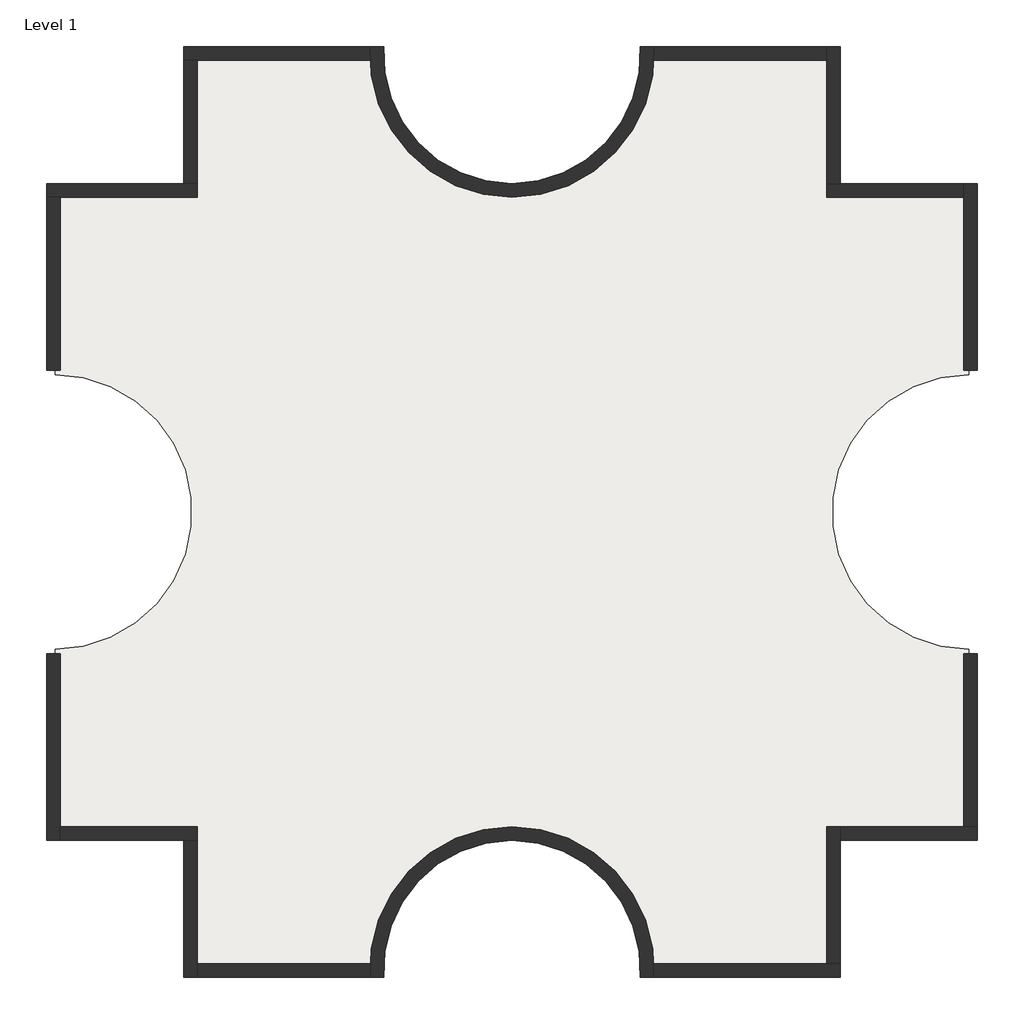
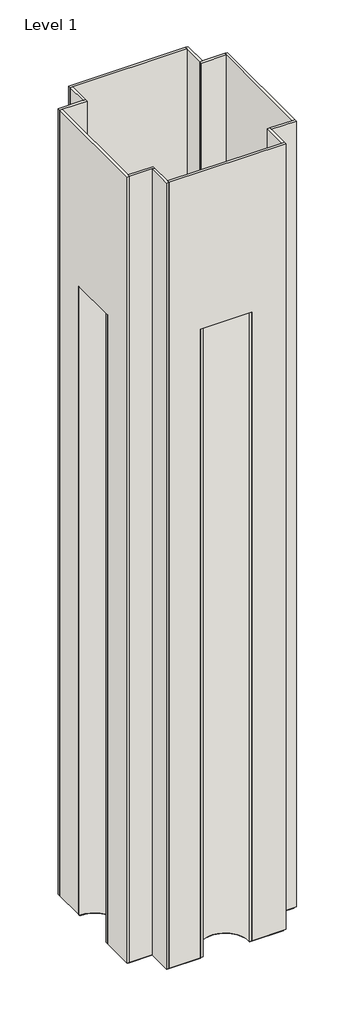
# One storey: 16 walls, 1 slab.
"""IFC4 building model written with IfcOpenShell, lengths in millimetres."""

from ifc_helpers import new_model, si_unit, point, frame, frame_2d, origin, origin_with_axes, place, context, project, spatial, polyline, circle_curve, trimmed, segment, composite_curve, outline, extrude, faceted_brep, element, save
from ifc_brep_helpers import plane_surface, cylinder_surface, revolved_surface, advanced_brep

model = new_model("IFC4")

# Units and contexts
model_context = context("Model", 3, world=origin())
ifc_project = project(units=[si_unit("LENGTHUNIT", "METRE", prefix="MILLI")], contexts=[model_context])

# Site, building, storey
site = spatial("IfcSite", under=ifc_project)
building = spatial("IfcBuilding", under=site)
storey = spatial("IfcBuildingStorey", under=building, Name="Level 1", Elevation=0.0)

# Slab
placement = place(None, origin())
element("IfcSlab", 1, ObjectType="Generic - 12\"", at=placement, inside=storey, context=model_context, shape_type="SweptSolid", body=[
    extrude(outline(composite_curve([segment(polyline([(-7150.3629456, 4479.6634547), (-7150.3629456, 9051.6634547), (-1054.3629456, 9051.6634547)]), True, "CONTINUOUS"), segment(trimmed(circle_curve(frame_2d((3517.6370544, 9051.6634547)), 4572.0), [point((-1054.3629456, 9051.6634547))], [point((8089.6370544, 9051.6634547))], True, "CARTESIAN"), True, "CONTINUOUS"), segment(polyline([(8089.6370544, 9051.6634547), (14185.6370544, 9051.6634547), (14185.6370544, 4479.6634547), (18757.6370544, 4479.6634547), (18757.6370544, -1616.3365453)]), True, "CONTINUOUS"), segment(trimmed(circle_curve(frame_2d((18757.6370544, -6188.3365453)), 4572.0), [point((18757.6370544, -1616.3365453))], [point((18757.6370544, -10760.3365453))], True, "CARTESIAN"), True, "CONTINUOUS"), segment(polyline([(18757.6370544, -10760.3365453), (18757.6370544, -16856.3365453), (14185.6370544, -16856.3365453), (14185.6370544, -21428.3365453), (8089.6370544, -21428.3365453)]), True, "CONTINUOUS"), segment(trimmed(circle_curve(frame_2d((3517.6370544, -21428.3365453)), 4572.0), [point((8089.6370544, -21428.3365453))], [point((-1054.3629456, -21428.3365453))], True, "CARTESIAN"), True, "CONTINUOUS"), segment(polyline([(-1054.3629456, -21428.3365453), (-7150.3629456, -21428.3365453), (-7150.3629456, -16856.3365453), (-11722.3629456, -16856.3365453), (-11722.3629456, -10760.3365453)]), True, "CONTINUOUS"), segment(trimmed(circle_curve(frame_2d((-11722.3629456, -6188.3365453)), 4572.0), [point((-11722.3629456, -10760.3365453))], [point((-11722.3629456, -1616.3365453))], True, "CARTESIAN"), True, "CONTINUOUS"), segment(polyline([(-11722.3629456, -1616.3365453), (-11722.3629456, 4479.6634547), (-7150.3629456, 4479.6634547)]), True, "CONTINUOUS")], self_intersect=False)), frame((0.0, 0.0, -304.8), z_axis=(0.0, 0.0, 1.0), x_axis=(1.0, 0.0, 0.0)), (0.0, 0.0, 1.0), 304.8),
])

# Walls
element("IfcWall", 2, ObjectType="Exterior - CMU on Mtl. Stud", at=placement, inside=storey, context=model_context, shape_type="Brep", body=[
    faceted_brep([(-6985.2629456, 4768.5884547, 0.0), (-7439.2879456, 4768.5884547, 0.0), (-12011.2879456, 4768.5884547, 0.0), (-12011.2879456, 4768.5884547, 152400.0), (-7439.2879456, 4768.5884547, 152400.0), (-6985.2629456, 4768.5884547, 152400.0), (-6985.2629456, 4314.5634547, 0.0), (-6985.2629456, 4314.5634547, 152400.0), (-11557.2629456, 4314.5634547, 152400.0), (-12011.2879456, 4314.5634547, 152400.0), (-12011.2879456, 4314.5634547, 0.0), (-11557.2629456, 4314.5634547, 0.0)], [[[0, 1, 2, 3, 4, 5]], [[6, 7, 8, 9, 10, 11]], [[2, 1, 0, 6, 11, 10]], [[5, 4, 3, 9, 8, 7]], [[3, 2, 10, 9]], [[0, 5, 7, 6]]]),
])
element("IfcWall", 3, ObjectType="Exterior - CMU on Mtl. Stud", at=placement, inside=storey, context=model_context, shape_type="AdvancedBrep", body=[
    advanced_brep(
    [(-12011.2879456, 4314.5634547, 152400.0), (-12011.2879456, 4314.5634547, 0.0), (-12011.2879456, -1460.0558055, 0.0), (-12011.2879456, -1460.0558055, 121920.0), (-12011.2879456, -1915.0177179, 121920.0), (-12011.2879456, -10461.6553726, 121920.0), (-12011.2879456, -10916.6172851, 121920.0), (-12011.2879456, -10916.6172851, 0.0), (-12011.2879456, -17145.2615453, 0.0), (-12011.2879456, -17145.2615453, 152400.0), (-11557.2629456, 4314.5634547, 152400.0), (-11557.2629456, -16691.2365453, 152400.0), (-11557.2629456, -17145.2615453, 152400.0), (-11557.2629456, -17145.2615453, 0.0), (-11557.2629456, -16691.2365453, 0.0), (-11557.2629456, -10922.5585933, 0.0), (-11557.2629456, -10922.5585933, 121920.0), (-11557.2629456, -1454.1144972, 121920.0), (-11557.2629456, -1454.1144972, 0.0), (-11557.2629456, 4314.5634547, 0.0)],
    [
        (0, 1),
        (1, 2),
        (2, 3),
        (3, 4),
        (4, 5),
        (5, 6),
        (6, 7),
        (7, 8),
        (8, 9),
        (9, 0),
        (10, 11),
        (11, 12),
        (12, 13),
        (13, 14),
        (14, 15),
        (15, 16),
        (16, 17),
        (17, 18),
        (18, 19),
        (19, 10),
        (1, 19),
        (18, 2, circle_curve(frame((-11722.3629456, -6188.3365453, 0.0), z_axis=(0.0, 0.0, 1.0), x_axis=(-1.0, 0.0, 0.0)), 4737.1)),
        (3, 17, circle_curve(frame((-11722.3629456, -6188.3365453, 121920.0), z_axis=(0.0, 0.0, -1.0), x_axis=(-1.0, 0.0, 0.0)), 4737.1)),
        (16, 6, circle_curve(frame((-11722.3629456, -6188.3365453, 121920.0), z_axis=(0.0, 0.0, -1.0), x_axis=(-1.0, 0.0, 0.0)), 4737.1)),
        (7, 15, circle_curve(frame((-11722.3629456, -6188.3365453, 0.0), z_axis=(0.0, 0.0, 1.0), x_axis=(-1.0, 0.0, 0.0)), 4737.1)),
        (13, 8),
        (9, 12),
        (10, 0),
    ],
    [
        plane_surface(frame((-12011.2879456, 4541.5759547, 152400.0), z_axis=(-1.0, 0.0, 0.0), x_axis=(0.0, 0.0, -1.0))),
        plane_surface(frame((-11557.2629456, 4541.5759547, 152400.0), z_axis=(1.0, 0.0, 0.0), x_axis=(0.0, 0.0, 1.0))),
        plane_surface(frame((-12011.2879456, 4541.5759547, 0.0), z_axis=(0.0, 0.0, -1.0), x_axis=(1.0, 0.0, 0.0))),
        plane_surface(frame((-12011.2879456, -1678.6740191, 121920.0), z_axis=(0.0, 0.0, -1.0), x_axis=(1.0, 0.0, 0.0))),
        plane_surface(frame((-12011.2879456, -10697.9990714, 0.0), z_axis=(0.0, 0.0, -1.0), x_axis=(1.0, 0.0, 0.0))),
        plane_surface(frame((-12011.2879456, -16918.2490453, 152400.0), z_axis=(0.0, 0.0, 1.0), x_axis=(1.0, 0.0, 0.0))),
        plane_surface(frame((-11722.3629456, -17145.2615453, 0.0), z_axis=(0.0, -1.0, 0.0), x_axis=(1.0, 0.0, 0.0))),
        plane_surface(frame((-7150.3629456, 4314.5634547, 0.0), z_axis=(0.0, 1.0, 0.0), x_axis=(1.0, 0.0, 0.0))),
        revolved_surface(polyline([(-16459.4629456, -6188.3365453, 121920.0), (-16459.4629456, -6188.3365453, 0.0)]), (-11722.3629456, -6188.3365453, 0.0), (0.0, 0.0, 1.0)),
    ],
    [
        (0, [[1, 2, 3, 4, 5, 6, 7, 8, 9, 10]]),
        (1, [[11, 12, 13, 14, 15, 16, 17, 18, 19, 20]]),
        (2, [[-2, 21, -19, 22]]),
        (3, [[-6, -5, -4, 23, -17, 24]]),
        (4, [[-8, 25, -15, -14, 26]]),
        (5, [[-10, 27, -12, -11, 28]]),
        (6, [[-9, -26, -13, -27]]),
        (7, [[-1, -28, -20, -21]]),
        (8, [[-3, -22, -18, -23]]),
        (8, [[-7, -24, -16, -25]]),
    ],
),
])
element("IfcWall", 4, ObjectType="Exterior - CMU on Mtl. Stud", at=placement, inside=storey, context=model_context, shape_type="Brep", body=[
    faceted_brep([(-11557.2629456, -17145.2615453, 0.0), (-7439.2879456, -17145.2615453, 0.0), (-6985.2629456, -17145.2615453, 0.0), (-6985.2629456, -17145.2615453, 152400.0), (-7439.2879456, -17145.2615453, 152400.0), (-11557.2629456, -17145.2615453, 152400.0), (-11557.2629456, -16691.2365453, 0.0), (-11557.2629456, -16691.2365453, 152400.0), (-6985.2629456, -16691.2365453, 152400.0), (-6985.2629456, -16691.2365453, 0.0)], [[[0, 1, 2, 3, 4, 5]], [[6, 7, 8, 9]], [[2, 1, 0, 6, 9]], [[5, 4, 3, 8, 7]], [[3, 2, 9, 8]], [[0, 5, 7, 6]]]),
])
element("IfcWall", 5, ObjectType="Exterior - CMU on Mtl. Stud", at=placement, inside=storey, context=model_context, shape_type="Brep", body=[
    faceted_brep([(-7439.2879456, -17145.2615453, 0.0), (-7439.2879456, -21717.2615453, 0.0), (-7439.2879456, -21717.2615453, 152400.0), (-7439.2879456, -17145.2615453, 152400.0), (-6985.2629456, -17145.2615453, 0.0), (-6985.2629456, -17145.2615453, 152400.0), (-6985.2629456, -21263.2365453, 152400.0), (-6985.2629456, -21717.2615453, 152400.0), (-6985.2629456, -21717.2615453, 0.0), (-6985.2629456, -21263.2365453, 0.0)], [[[0, 1, 2, 3]], [[4, 5, 6, 7, 8, 9]], [[1, 0, 4, 9, 8]], [[3, 2, 7, 6, 5]], [[2, 1, 8, 7]], [[0, 3, 5, 4]]]),
])
element("IfcWall", 6, ObjectType="Exterior - CMU on Mtl. Stud", at=placement, inside=storey, context=model_context, shape_type="AdvancedBrep", body=[
    advanced_brep(
    [(-6985.2629456, -21717.2615453, 152400.0), (-6985.2629456, -21717.2615453, 0.0), (-1210.6436854, -21717.2615453, 0.0), (-1210.6436854, -21717.2615453, 121920.0), (-755.681773, -21717.2615453, 121920.0), (7790.9558817, -21717.2615453, 121920.0), (8245.9177942, -21717.2615453, 121920.0), (8245.9177942, -21717.2615453, 0.0), (14474.5620544, -21717.2615453, 0.0), (14474.5620544, -21717.2615453, 152400.0), (-6985.2629456, -21263.2365453, 152400.0), (14020.5370544, -21263.2365453, 152400.0), (14474.5620544, -21263.2365453, 152400.0), (14474.5620544, -21263.2365453, 0.0), (14020.5370544, -21263.2365453, 0.0), (8251.8591024, -21263.2365453, 0.0), (8251.8591024, -21263.2365453, 121920.0), (-1216.5849937, -21263.2365453, 121920.0), (-1216.5849937, -21263.2365453, 0.0), (-6985.2629456, -21263.2365453, 0.0)],
    [
        (0, 1),
        (1, 2),
        (2, 3),
        (3, 4),
        (4, 5),
        (5, 6),
        (6, 7),
        (7, 8),
        (8, 9),
        (9, 0),
        (10, 11),
        (11, 12),
        (12, 13),
        (13, 14),
        (14, 15),
        (15, 16),
        (16, 17),
        (17, 18),
        (18, 19),
        (19, 10),
        (1, 19),
        (18, 2, circle_curve(frame((3517.6370544, -21428.3365453, 0.0), z_axis=(0.0, 0.0, 1.0), x_axis=(0.0, -1.0, 0.0)), 4737.1)),
        (3, 17, circle_curve(frame((3517.6370544, -21428.3365453, 121920.0), z_axis=(0.0, 0.0, -1.0), x_axis=(0.0, -1.0, 0.0)), 4737.1)),
        (16, 6, circle_curve(frame((3517.6370544, -21428.3365453, 121920.0), z_axis=(0.0, 0.0, -1.0), x_axis=(0.0, -1.0, 0.0)), 4737.1)),
        (7, 15, circle_curve(frame((3517.6370544, -21428.3365453, 0.0), z_axis=(0.0, 0.0, 1.0), x_axis=(0.0, -1.0, 0.0)), 4737.1)),
        (13, 8),
        (9, 12),
        (10, 0),
    ],
    [
        plane_surface(frame((-7212.2754456, -21717.2615453, 152400.0), z_axis=(0.0, -1.0, 0.0), x_axis=(0.0, 0.0, -1.0))),
        plane_surface(frame((-7212.2754456, -21263.2365453, 152400.0), z_axis=(0.0, 1.0, 0.0), x_axis=(0.0, 0.0, 1.0))),
        plane_surface(frame((-7212.2754456, -21717.2615453, 0.0), z_axis=(0.0, 0.0, -1.0), x_axis=(0.0, 1.0, 0.0))),
        plane_surface(frame((-992.0254718, -21717.2615453, 121920.0), z_axis=(0.0, 0.0, -1.0), x_axis=(0.0, 1.0, 0.0))),
        plane_surface(frame((8027.2995805, -21717.2615453, 0.0), z_axis=(0.0, 0.0, -1.0), x_axis=(0.0, 1.0, 0.0))),
        plane_surface(frame((14247.5495544, -21717.2615453, 152400.0), z_axis=(0.0, 0.0, 1.0), x_axis=(0.0, 1.0, 0.0))),
        plane_surface(frame((14474.5620544, -21428.3365453, 0.0), z_axis=(1.0, 0.0, 0.0), x_axis=(0.0, 1.0, 0.0))),
        plane_surface(frame((-6985.2629456, -16856.3365453, 0.0), z_axis=(-1.0, 0.0, 0.0), x_axis=(0.0, 1.0, 0.0))),
        revolved_surface(polyline([(3517.6370544, -26165.4365453, 121920.0), (3517.6370544, -26165.4365453, 0.0)]), (3517.6370544, -21428.3365453, 0.0), (0.0, 0.0, 1.0)),
    ],
    [
        (0, [[1, 2, 3, 4, 5, 6, 7, 8, 9, 10]]),
        (1, [[11, 12, 13, 14, 15, 16, 17, 18, 19, 20]]),
        (2, [[-2, 21, -19, 22]]),
        (3, [[-6, -5, -4, 23, -17, 24]]),
        (4, [[-8, 25, -15, -14, 26]]),
        (5, [[-10, 27, -12, -11, 28]]),
        (6, [[-9, -26, -13, -27]]),
        (7, [[-1, -28, -20, -21]]),
        (8, [[-3, -22, -18, -23]]),
        (8, [[-7, -24, -16, -25]]),
    ],
),
])
element("IfcWall", 7, ObjectType="Exterior - CMU on Mtl. Stud", at=placement, inside=storey, context=model_context, shape_type="Brep", body=[
    faceted_brep([(14474.5620544, -21263.2365453, 0.0), (14474.5620544, -17145.2615453, 0.0), (14474.5620544, -16691.2365453, 0.0), (14474.5620544, -16691.2365453, 152400.0), (14474.5620544, -17145.2615453, 152400.0), (14474.5620544, -21263.2365453, 152400.0), (14020.5370544, -21263.2365453, 0.0), (14020.5370544, -21263.2365453, 152400.0), (14020.5370544, -16691.2365453, 152400.0), (14020.5370544, -16691.2365453, 0.0)], [[[0, 1, 2, 3, 4, 5]], [[6, 7, 8, 9]], [[2, 1, 0, 6, 9]], [[5, 4, 3, 8, 7]], [[3, 2, 9, 8]], [[0, 5, 7, 6]]]),
])
element("IfcWall", 8, ObjectType="Exterior - CMU on Mtl. Stud", at=placement, inside=storey, context=model_context, shape_type="Brep", body=[
    faceted_brep([(14474.5620544, -17145.2615453, 0.0), (19046.5620544, -17145.2615453, 0.0), (19046.5620544, -17145.2615453, 152400.0), (14474.5620544, -17145.2615453, 152400.0), (14474.5620544, -16691.2365453, 0.0), (14474.5620544, -16691.2365453, 152400.0), (18592.5370544, -16691.2365453, 152400.0), (19046.5620544, -16691.2365453, 152400.0), (19046.5620544, -16691.2365453, 0.0), (18592.5370544, -16691.2365453, 0.0)], [[[0, 1, 2, 3]], [[4, 5, 6, 7, 8, 9]], [[1, 0, 4, 9, 8]], [[3, 2, 7, 6, 5]], [[2, 1, 8, 7]], [[0, 3, 5, 4]]]),
])
element("IfcWall", 9, ObjectType="Exterior - CMU on Mtl. Stud", at=placement, inside=storey, context=model_context, shape_type="AdvancedBrep", body=[
    advanced_brep(
    [(19046.5620544, -16691.2365453, 152400.0), (19046.5620544, -16691.2365453, 0.0), (19046.5620544, -10916.6172851, 0.0), (19046.5620544, -10916.6172851, 121920.0), (19046.5620544, -10461.6553726, 121920.0), (19046.5620544, -1915.0177179, 121920.0), (19046.5620544, -1460.0558055, 121920.0), (19046.5620544, -1460.0558055, 0.0), (19046.5620544, 4768.5884547, 0.0), (19046.5620544, 4768.5884547, 152400.0), (18592.5370544, -16691.2365453, 152400.0), (18592.5370544, 4314.5634547, 152400.0), (18592.5370544, 4768.5884547, 152400.0), (18592.5370544, 4768.5884547, 0.0), (18592.5370544, 4314.5634547, 0.0), (18592.5370544, -1454.1144972, 0.0), (18592.5370544, -1454.1144972, 121920.0), (18592.5370544, -10922.5585933, 121920.0), (18592.5370544, -10922.5585933, 0.0), (18592.5370544, -16691.2365453, 0.0)],
    [
        (0, 1),
        (1, 2),
        (2, 3),
        (3, 4),
        (4, 5),
        (5, 6),
        (6, 7),
        (7, 8),
        (8, 9),
        (9, 0),
        (10, 11),
        (11, 12),
        (12, 13),
        (13, 14),
        (14, 15),
        (15, 16),
        (16, 17),
        (17, 18),
        (18, 19),
        (19, 10),
        (1, 19),
        (18, 2, circle_curve(frame((18757.6370544, -6188.3365453, 0.0), z_axis=(0.0, 0.0, 1.0), x_axis=(1.0, 0.0, 0.0)), 4737.1)),
        (3, 17, circle_curve(frame((18757.6370544, -6188.3365453, 121920.0), z_axis=(0.0, 0.0, -1.0), x_axis=(1.0, 0.0, 0.0)), 4737.1)),
        (16, 6, circle_curve(frame((18757.6370544, -6188.3365453, 121920.0), z_axis=(0.0, 0.0, -1.0), x_axis=(1.0, 0.0, 0.0)), 4737.1)),
        (7, 15, circle_curve(frame((18757.6370544, -6188.3365453, 0.0), z_axis=(0.0, 0.0, 1.0), x_axis=(1.0, 0.0, 0.0)), 4737.1)),
        (13, 8),
        (9, 12),
        (10, 0),
    ],
    [
        plane_surface(frame((19046.5620544, -16918.2490453, 152400.0), z_axis=(1.0, 0.0, 0.0), x_axis=(0.0, 0.0, -1.0))),
        plane_surface(frame((18592.5370544, -16918.2490453, 152400.0), z_axis=(-1.0, 0.0, 0.0), x_axis=(0.0, 0.0, 1.0))),
        plane_surface(frame((19046.5620544, -16918.2490453, 0.0), z_axis=(0.0, 0.0, -1.0), x_axis=(-1.0, 0.0, 0.0))),
        plane_surface(frame((19046.5620544, -10697.9990714, 121920.0), z_axis=(0.0, 0.0, -1.0), x_axis=(-1.0, 0.0, 0.0))),
        plane_surface(frame((19046.5620544, -1678.6740191, 0.0), z_axis=(0.0, 0.0, -1.0), x_axis=(-1.0, 0.0, 0.0))),
        plane_surface(frame((19046.5620544, 4541.5759547, 152400.0), z_axis=(0.0, 0.0, 1.0), x_axis=(-1.0, 0.0, 0.0))),
        plane_surface(frame((18757.6370544, 4768.5884547, 0.0), z_axis=(0.0, 1.0, 0.0), x_axis=(-1.0, 0.0, 0.0))),
        plane_surface(frame((14185.6370544, -16691.2365453, 0.0), z_axis=(0.0, -1.0, 0.0), x_axis=(-1.0, 0.0, 0.0))),
        revolved_surface(polyline([(23494.7370544, -6188.3365453, 121920.0), (23494.7370544, -6188.3365453, 0.0)]), (18757.6370544, -6188.3365453, 0.0), (0.0, 0.0, 1.0)),
    ],
    [
        (0, [[1, 2, 3, 4, 5, 6, 7, 8, 9, 10]]),
        (1, [[11, 12, 13, 14, 15, 16, 17, 18, 19, 20]]),
        (2, [[-2, 21, -19, 22]]),
        (3, [[-6, -5, -4, 23, -17, 24]]),
        (4, [[-8, 25, -15, -14, 26]]),
        (5, [[-10, 27, -12, -11, 28]]),
        (6, [[-9, -26, -13, -27]]),
        (7, [[-1, -28, -20, -21]]),
        (8, [[-3, -22, -18, -23]]),
        (8, [[-7, -24, -16, -25]]),
    ],
),
])
element("IfcWall", 10, ObjectType="Exterior - CMU on Mtl. Stud", at=placement, inside=storey, context=model_context, shape_type="Brep", body=[
    faceted_brep([(18592.5370544, 4768.5884547, 0.0), (14474.5620544, 4768.5884547, 0.0), (14020.5370544, 4768.5884547, 0.0), (14020.5370544, 4768.5884547, 152400.0), (14474.5620544, 4768.5884547, 152400.0), (18592.5370544, 4768.5884547, 152400.0), (18592.5370544, 4314.5634547, 0.0), (18592.5370544, 4314.5634547, 152400.0), (14020.5370544, 4314.5634547, 152400.0), (14020.5370544, 4314.5634547, 0.0)], [[[0, 1, 2, 3, 4, 5]], [[6, 7, 8, 9]], [[2, 1, 0, 6, 9]], [[5, 4, 3, 8, 7]], [[3, 2, 9, 8]], [[0, 5, 7, 6]]]),
])
element("IfcWall", 11, ObjectType="Exterior - CMU on Mtl. Stud", at=placement, inside=storey, context=model_context, shape_type="Brep", body=[
    faceted_brep([(14474.5620544, 4768.5884547, 0.0), (14474.5620544, 9340.5884547, 0.0), (14474.5620544, 9340.5884547, 152400.0), (14474.5620544, 4768.5884547, 152400.0), (14020.5370544, 4768.5884547, 0.0), (14020.5370544, 4768.5884547, 152400.0), (14020.5370544, 8886.5634547, 152400.0), (14020.5370544, 9340.5884547, 152400.0), (14020.5370544, 9340.5884547, 0.0), (14020.5370544, 8886.5634547, 0.0)], [[[0, 1, 2, 3]], [[4, 5, 6, 7, 8, 9]], [[1, 0, 4, 9, 8]], [[3, 2, 7, 6, 5]], [[2, 1, 8, 7]], [[0, 3, 5, 4]]]),
])
element("IfcWall", 12, ObjectType="Exterior - CMU on Mtl. Stud", at=placement, inside=storey, context=model_context, shape_type="AdvancedBrep", body=[
    advanced_brep(
    [(14020.5370544, 9340.5884547, 152400.0), (14020.5370544, 9340.5884547, 0.0), (8245.9177942, 9340.5884547, 0.0), (8245.9177942, 9340.5884547, 121920.0), (7790.9558817, 9340.5884547, 121920.0), (-755.681773, 9340.5884547, 121920.0), (-1210.6436854, 9340.5884547, 121920.0), (-1210.6436854, 9340.5884547, 0.0), (-7439.2879456, 9340.5884547, 0.0), (-7439.2879456, 9340.5884547, 152400.0), (14020.5370544, 8886.5634547, 152400.0), (-6985.2629456, 8886.5634547, 152400.0), (-7439.2879456, 8886.5634547, 152400.0), (-7439.2879456, 8886.5634547, 0.0), (-6985.2629456, 8886.5634547, 0.0), (-1216.5849937, 8886.5634547, 0.0), (-1216.5849937, 8886.5634547, 121920.0), (8251.8591024, 8886.5634547, 121920.0), (8251.8591024, 8886.5634547, 0.0), (14020.5370544, 8886.5634547, 0.0)],
    [
        (0, 1),
        (1, 2),
        (2, 3),
        (3, 4),
        (4, 5),
        (5, 6),
        (6, 7),
        (7, 8),
        (8, 9),
        (9, 0),
        (10, 11),
        (11, 12),
        (12, 13),
        (13, 14),
        (14, 15),
        (15, 16),
        (16, 17),
        (17, 18),
        (18, 19),
        (19, 10),
        (1, 19),
        (18, 2, circle_curve(frame((3517.6370544, 9051.6634547, 0.0), z_axis=(0.0, 0.0, 1.0), x_axis=(0.0, 1.0, 0.0)), 4737.1)),
        (3, 17, circle_curve(frame((3517.6370544, 9051.6634547, 121920.0), z_axis=(0.0, 0.0, -1.0), x_axis=(0.0, 1.0, 0.0)), 4737.1)),
        (16, 6, circle_curve(frame((3517.6370544, 9051.6634547, 121920.0), z_axis=(0.0, 0.0, -1.0), x_axis=(0.0, 1.0, 0.0)), 4737.1)),
        (7, 15, circle_curve(frame((3517.6370544, 9051.6634547, 0.0), z_axis=(0.0, 0.0, 1.0), x_axis=(0.0, 1.0, 0.0)), 4737.1)),
        (13, 8),
        (9, 12),
        (10, 0),
    ],
    [
        plane_surface(frame((14247.5495544, 9340.5884547, 152400.0), z_axis=(0.0, 1.0, 0.0), x_axis=(0.0, 0.0, -1.0))),
        plane_surface(frame((14247.5495544, 8886.5634547, 152400.0), z_axis=(0.0, -1.0, 0.0), x_axis=(0.0, 0.0, 1.0))),
        plane_surface(frame((14247.5495544, 9340.5884547, 0.0), z_axis=(0.0, 0.0, -1.0), x_axis=(0.0, -1.0, 0.0))),
        plane_surface(frame((8027.2995805, 9340.5884547, 121920.0), z_axis=(0.0, 0.0, -1.0), x_axis=(0.0, -1.0, 0.0))),
        plane_surface(frame((-992.0254718, 9340.5884547, 0.0), z_axis=(0.0, 0.0, -1.0), x_axis=(0.0, -1.0, 0.0))),
        plane_surface(frame((-7212.2754456, 9340.5884547, 152400.0), z_axis=(0.0, 0.0, 1.0), x_axis=(0.0, -1.0, 0.0))),
        plane_surface(frame((-7439.2879456, 9051.6634547, 0.0), z_axis=(-1.0, 0.0, 0.0), x_axis=(0.0, -1.0, 0.0))),
        plane_surface(frame((14020.5370544, 4479.6634547, 0.0), z_axis=(1.0, 0.0, 0.0), x_axis=(0.0, -1.0, 0.0))),
        revolved_surface(polyline([(3517.6370544, 13788.7634547, 121920.0), (3517.6370544, 13788.7634547, 0.0)]), (3517.6370544, 9051.6634547, 0.0), (0.0, 0.0, 1.0)),
    ],
    [
        (0, [[1, 2, 3, 4, 5, 6, 7, 8, 9, 10]]),
        (1, [[11, 12, 13, 14, 15, 16, 17, 18, 19, 20]]),
        (2, [[-2, 21, -19, 22]]),
        (3, [[-6, -5, -4, 23, -17, 24]]),
        (4, [[-8, 25, -15, -14, 26]]),
        (5, [[-10, 27, -12, -11, 28]]),
        (6, [[-9, -26, -13, -27]]),
        (7, [[-1, -28, -20, -21]]),
        (8, [[-3, -22, -18, -23]]),
        (8, [[-7, -24, -16, -25]]),
    ],
),
])
element("IfcWall", 13, ObjectType="Exterior - CMU on Mtl. Stud", at=placement, inside=storey, context=model_context, shape_type="SweptSolid", body=[
    extrude(outline(polyline([(-7439.2879456, 4768.5884547), (-7439.2879456, 8886.5634547), (-6985.2629456, 8886.5634547), (-6985.2629456, 4768.5884547), (-7439.2879456, 4768.5884547)])), origin_with_axes(), (0.0, 0.0, 1.0), 152400.0),
])
element("IfcWall", 14, ObjectType="Exterior - CMU on Mtl. Stud", at=placement, inside=storey, context=model_context, shape_type="AdvancedBrep", body=[
    advanced_brep(
    [(19046.5620544, -10461.6553726, 121920.0), (19046.5620544, -1915.0177179, 121920.0), (19046.5620544, -1460.0558055, 121920.0), (18592.5370544, -1454.1144972, 121920.0), (18592.5370544, -10922.5585933, 121920.0), (19046.5620544, -10916.6172851, 121920.0), (19046.5620544, -10461.6553726, 0.0), (19046.5620544, -10916.6172851, 0.0), (18592.5370544, -10922.5585933, 0.0), (18592.5370544, -1454.1144972, 0.0), (19046.5620544, -1460.0558055, 0.0), (19046.5620544, -1915.0177179, 0.0)],
    [
        (0, 1, circle_curve(frame((18757.6370544, -6188.3365453, 121920.0), z_axis=(0.0, 0.0, -1.0), x_axis=(1.0, 0.0, 0.0)), 4283.075)),
        (1, 2),
        (2, 3, circle_curve(frame((18757.6370544, -6188.3365453, 121920.0), z_axis=(0.0, 0.0, 1.0), x_axis=(1.0, 0.0, 0.0)), 4737.1)),
        (3, 4, circle_curve(frame((18757.6370544, -6188.3365453, 121920.0), z_axis=(0.0, 0.0, 1.0), x_axis=(1.0, 0.0, 0.0)), 4737.1)),
        (4, 5, circle_curve(frame((18757.6370544, -6188.3365453, 121920.0), z_axis=(0.0, 0.0, 1.0), x_axis=(1.0, 0.0, 0.0)), 4737.1)),
        (5, 0),
        (6, 7),
        (7, 8, circle_curve(frame((18757.6370544, -6188.3365453, 0.0), z_axis=(0.0, 0.0, -1.0), x_axis=(1.0, 0.0, 0.0)), 4737.1)),
        (8, 9, circle_curve(frame((18757.6370544, -6188.3365453, 0.0), z_axis=(0.0, 0.0, -1.0), x_axis=(1.0, 0.0, 0.0)), 4737.1)),
        (9, 10, circle_curve(frame((18757.6370544, -6188.3365453, 0.0), z_axis=(0.0, 0.0, -1.0), x_axis=(1.0, 0.0, 0.0)), 4737.1)),
        (10, 11),
        (11, 6, circle_curve(frame((18757.6370544, -6188.3365453, 0.0), z_axis=(0.0, 0.0, 1.0), x_axis=(1.0, 0.0, 0.0)), 4283.075)),
        (0, 6),
        (11, 1),
        (2, 10),
        (7, 5),
    ],
    [
        plane_surface(frame((23040.7120544, -6188.3365453, 121920.0), z_axis=(0.0, 0.0, 1.0), x_axis=(0.0, -1.0, 0.0))),
        plane_surface(frame((23040.7120544, -6188.3365453, 0.0), z_axis=(0.0, 0.0, -1.0), x_axis=(0.0, 1.0, 0.0))),
        revolved_surface(polyline([(23040.7120544, -6188.3365453, 0.0), (23040.7120544, -6188.3365453, 121920.0)]), (18757.6370544, -6188.3365453, 0.0), (0.0, 0.0, -1.0)),
        cylinder_surface(frame((18757.6370544, -6188.3365453, 0.0), z_axis=(0.0, 0.0, 1.0), x_axis=(1.0, 0.0, 0.0)), 4737.1),
        plane_surface(frame((19046.5620544, -16918.2490453, 152400.0), z_axis=(1.0, 0.0, 0.0), x_axis=(0.0, 0.0, -1.0))),
    ],
    [
        (0, [[1, 2, 3, 4, 5, 6]]),
        (1, [[7, 8, 9, 10, 11, 12]]),
        (2, [[-1, 13, -12, 14]]),
        (3, [[-5, -4, -3, 15, -10, -9, -8, 16]]),
        (4, [[-6, -16, -7, -13]]),
        (4, [[-2, -14, -11, -15]]),
    ],
),
])
element("IfcWall", 15, ObjectType="Exterior - CMU on Mtl. Stud", at=placement, inside=storey, context=model_context, shape_type="AdvancedBrep", body=[
    advanced_brep(
    [(-755.681773, -21717.2615453, 121920.0), (7790.9558817, -21717.2615453, 121920.0), (8245.9177942, -21717.2615453, 121920.0), (8251.8591024, -21263.2365453, 121920.0), (-1216.5849937, -21263.2365453, 121920.0), (-1210.6436854, -21717.2615453, 121920.0), (-755.681773, -21717.2615453, 0.0), (-1210.6436854, -21717.2615453, 0.0), (-1216.5849937, -21263.2365453, 0.0), (8251.8591024, -21263.2365453, 0.0), (8245.9177942, -21717.2615453, 0.0), (7790.9558817, -21717.2615453, 0.0)],
    [
        (0, 1, circle_curve(frame((3517.6370544, -21428.3365453, 121920.0), z_axis=(0.0, 0.0, -1.0), x_axis=(0.0, -1.0, 0.0)), 4283.075)),
        (1, 2),
        (2, 3, circle_curve(frame((3517.6370544, -21428.3365453, 121920.0), z_axis=(0.0, 0.0, 1.0), x_axis=(0.0, -1.0, 0.0)), 4737.1)),
        (3, 4, circle_curve(frame((3517.6370544, -21428.3365453, 121920.0), z_axis=(0.0, 0.0, 1.0), x_axis=(0.0, -1.0, 0.0)), 4737.1)),
        (4, 5, circle_curve(frame((3517.6370544, -21428.3365453, 121920.0), z_axis=(0.0, 0.0, 1.0), x_axis=(0.0, -1.0, 0.0)), 4737.1)),
        (5, 0),
        (6, 7),
        (7, 8, circle_curve(frame((3517.6370544, -21428.3365453, 0.0), z_axis=(0.0, 0.0, -1.0), x_axis=(0.0, -1.0, 0.0)), 4737.1)),
        (8, 9, circle_curve(frame((3517.6370544, -21428.3365453, 0.0), z_axis=(0.0, 0.0, -1.0), x_axis=(0.0, -1.0, 0.0)), 4737.1)),
        (9, 10, circle_curve(frame((3517.6370544, -21428.3365453, 0.0), z_axis=(0.0, 0.0, -1.0), x_axis=(0.0, -1.0, 0.0)), 4737.1)),
        (10, 11),
        (11, 6, circle_curve(frame((3517.6370544, -21428.3365453, 0.0), z_axis=(0.0, 0.0, 1.0), x_axis=(0.0, -1.0, 0.0)), 4283.075)),
        (0, 6),
        (11, 1),
        (2, 10),
        (7, 5),
    ],
    [
        plane_surface(frame((3517.6370544, -25711.4115453, 121920.0), z_axis=(0.0, 0.0, 1.0), x_axis=(-1.0, 0.0, 0.0))),
        plane_surface(frame((3517.6370544, -25711.4115453, 0.0), z_axis=(0.0, 0.0, -1.0), x_axis=(1.0, 0.0, 0.0))),
        revolved_surface(polyline([(3517.6370544, -25711.4115453, 0.0), (3517.6370544, -25711.4115453, 121920.0)]), (3517.6370544, -21428.3365453, 0.0), (0.0, 0.0, -1.0)),
        cylinder_surface(frame((3517.6370544, -21428.3365453, 0.0), z_axis=(0.0, 0.0, 1.0), x_axis=(0.0, -1.0, 0.0)), 4737.1),
        plane_surface(frame((-7212.2754456, -21717.2615453, 152400.0), z_axis=(0.0, -1.0, 0.0), x_axis=(0.0, 0.0, -1.0))),
    ],
    [
        (0, [[1, 2, 3, 4, 5, 6]]),
        (1, [[7, 8, 9, 10, 11, 12]]),
        (2, [[-1, 13, -12, 14]]),
        (3, [[-5, -4, -3, 15, -10, -9, -8, 16]]),
        (4, [[-6, -16, -7, -13]]),
        (4, [[-2, -14, -11, -15]]),
    ],
),
])
element("IfcWall", 16, ObjectType="Exterior - CMU on Mtl. Stud", at=placement, inside=storey, context=model_context, shape_type="AdvancedBrep", body=[
    advanced_brep(
    [(7790.9558817, 9340.5884547, 121920.0), (-755.681773, 9340.5884547, 121920.0), (-1210.6436854, 9340.5884547, 121920.0), (-1216.5849937, 8886.5634547, 121920.0), (8251.8591024, 8886.5634547, 121920.0), (8245.9177942, 9340.5884547, 121920.0), (7790.9558817, 9340.5884547, 0.0), (8245.9177942, 9340.5884547, 0.0), (8251.8591024, 8886.5634547, 0.0), (-1216.5849937, 8886.5634547, 0.0), (-1210.6436854, 9340.5884547, 0.0), (-755.681773, 9340.5884547, 0.0)],
    [
        (0, 1, circle_curve(frame((3517.6370544, 9051.6634547, 121920.0), z_axis=(0.0, 0.0, -1.0), x_axis=(0.0, 1.0, 0.0)), 4283.075)),
        (1, 2),
        (2, 3, circle_curve(frame((3517.6370544, 9051.6634547, 121920.0), z_axis=(0.0, 0.0, 1.0), x_axis=(0.0, 1.0, 0.0)), 4737.1)),
        (3, 4, circle_curve(frame((3517.6370544, 9051.6634547, 121920.0), z_axis=(0.0, 0.0, 1.0), x_axis=(0.0, 1.0, 0.0)), 4737.1)),
        (4, 5, circle_curve(frame((3517.6370544, 9051.6634547, 121920.0), z_axis=(0.0, 0.0, 1.0), x_axis=(0.0, 1.0, 0.0)), 4737.1)),
        (5, 0),
        (6, 7),
        (7, 8, circle_curve(frame((3517.6370544, 9051.6634547, 0.0), z_axis=(0.0, 0.0, -1.0), x_axis=(0.0, 1.0, 0.0)), 4737.1)),
        (8, 9, circle_curve(frame((3517.6370544, 9051.6634547, 0.0), z_axis=(0.0, 0.0, -1.0), x_axis=(0.0, 1.0, 0.0)), 4737.1)),
        (9, 10, circle_curve(frame((3517.6370544, 9051.6634547, 0.0), z_axis=(0.0, 0.0, -1.0), x_axis=(0.0, 1.0, 0.0)), 4737.1)),
        (10, 11),
        (11, 6, circle_curve(frame((3517.6370544, 9051.6634547, 0.0), z_axis=(0.0, 0.0, 1.0), x_axis=(0.0, 1.0, 0.0)), 4283.075)),
        (0, 6),
        (11, 1),
        (2, 10),
        (7, 5),
    ],
    [
        plane_surface(frame((3517.6370544, 13334.7384547, 121920.0), z_axis=(0.0, 0.0, 1.0), x_axis=(1.0, 0.0, 0.0))),
        plane_surface(frame((3517.6370544, 13334.7384547, 0.0), z_axis=(0.0, 0.0, -1.0), x_axis=(-1.0, 0.0, 0.0))),
        revolved_surface(polyline([(3517.6370544, 13334.7384547, 0.0), (3517.6370544, 13334.7384547, 121920.0)]), (3517.6370544, 9051.6634547, 0.0), (0.0, 0.0, -1.0)),
        cylinder_surface(frame((3517.6370544, 9051.6634547, 0.0), z_axis=(0.0, 0.0, 1.0), x_axis=(0.0, 1.0, 0.0)), 4737.1),
        plane_surface(frame((14247.5495544, 9340.5884547, 152400.0), z_axis=(0.0, 1.0, 0.0), x_axis=(0.0, 0.0, -1.0))),
    ],
    [
        (0, [[1, 2, 3, 4, 5, 6]]),
        (1, [[7, 8, 9, 10, 11, 12]]),
        (2, [[-1, 13, -12, 14]]),
        (3, [[-5, -4, -3, 15, -10, -9, -8, 16]]),
        (4, [[-6, -16, -7, -13]]),
        (4, [[-2, -14, -11, -15]]),
    ],
),
])
element("IfcWall", 17, ObjectType="Exterior - CMU on Mtl. Stud", at=placement, inside=storey, context=model_context, shape_type="AdvancedBrep", body=[
    advanced_brep(
    [(-12011.2879456, -1915.0177179, 121920.0), (-12011.2879456, -10461.6553726, 121920.0), (-12011.2879456, -10916.6172851, 121920.0), (-11557.2629456, -10922.5585933, 121920.0), (-11557.2629456, -1454.1144972, 121920.0), (-12011.2879456, -1460.0558055, 121920.0), (-12011.2879456, -1915.0177179, 0.0), (-12011.2879456, -1460.0558055, 0.0), (-11557.2629456, -1454.1144972, 0.0), (-11557.2629456, -10922.5585933, 0.0), (-12011.2879456, -10916.6172851, 0.0), (-12011.2879456, -10461.6553726, 0.0)],
    [
        (0, 1, circle_curve(frame((-11722.3629456, -6188.3365453, 121920.0), z_axis=(0.0, 0.0, -1.0), x_axis=(-1.0, 0.0, 0.0)), 4283.075)),
        (1, 2),
        (2, 3, circle_curve(frame((-11722.3629456, -6188.3365453, 121920.0), z_axis=(0.0, 0.0, 1.0), x_axis=(-1.0, 0.0, 0.0)), 4737.1)),
        (3, 4, circle_curve(frame((-11722.3629456, -6188.3365453, 121920.0), z_axis=(0.0, 0.0, 1.0), x_axis=(-1.0, 0.0, 0.0)), 4737.1)),
        (4, 5, circle_curve(frame((-11722.3629456, -6188.3365453, 121920.0), z_axis=(0.0, 0.0, 1.0), x_axis=(-1.0, 0.0, 0.0)), 4737.1)),
        (5, 0),
        (6, 7),
        (7, 8, circle_curve(frame((-11722.3629456, -6188.3365453, 0.0), z_axis=(0.0, 0.0, -1.0), x_axis=(-1.0, 0.0, 0.0)), 4737.1)),
        (8, 9, circle_curve(frame((-11722.3629456, -6188.3365453, 0.0), z_axis=(0.0, 0.0, -1.0), x_axis=(-1.0, 0.0, 0.0)), 4737.1)),
        (9, 10, circle_curve(frame((-11722.3629456, -6188.3365453, 0.0), z_axis=(0.0, 0.0, -1.0), x_axis=(-1.0, 0.0, 0.0)), 4737.1)),
        (10, 11),
        (11, 6, circle_curve(frame((-11722.3629456, -6188.3365453, 0.0), z_axis=(0.0, 0.0, 1.0), x_axis=(-1.0, 0.0, 0.0)), 4283.075)),
        (0, 6),
        (11, 1),
        (2, 10),
        (7, 5),
    ],
    [
        plane_surface(frame((-16005.4379456, -6188.3365453, 121920.0), z_axis=(0.0, 0.0, 1.0), x_axis=(0.0, 1.0, 0.0))),
        plane_surface(frame((-16005.4379456, -6188.3365453, 0.0), z_axis=(0.0, 0.0, -1.0), x_axis=(0.0, -1.0, 0.0))),
        revolved_surface(polyline([(-16005.437945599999, -6188.3365453, 0.0), (-16005.437945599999, -6188.3365453, 121920.0)]), (-11722.3629456, -6188.3365453, 0.0), (0.0, 0.0, -1.0)),
        cylinder_surface(frame((-11722.3629456, -6188.3365453, 0.0), z_axis=(0.0, 0.0, 1.0), x_axis=(-1.0, 0.0, 0.0)), 4737.1),
        plane_surface(frame((-12011.2879456, 4541.5759547, 152400.0), z_axis=(-1.0, 0.0, 0.0), x_axis=(0.0, 0.0, -1.0))),
    ],
    [
        (0, [[1, 2, 3, 4, 5, 6]]),
        (1, [[7, 8, 9, 10, 11, 12]]),
        (2, [[-1, 13, -12, 14]]),
        (3, [[-5, -4, -3, 15, -10, -9, -8, 16]]),
        (4, [[-6, -16, -7, -13]]),
        (4, [[-2, -14, -11, -15]]),
    ],
),
])

save(model, "model.ifc")
